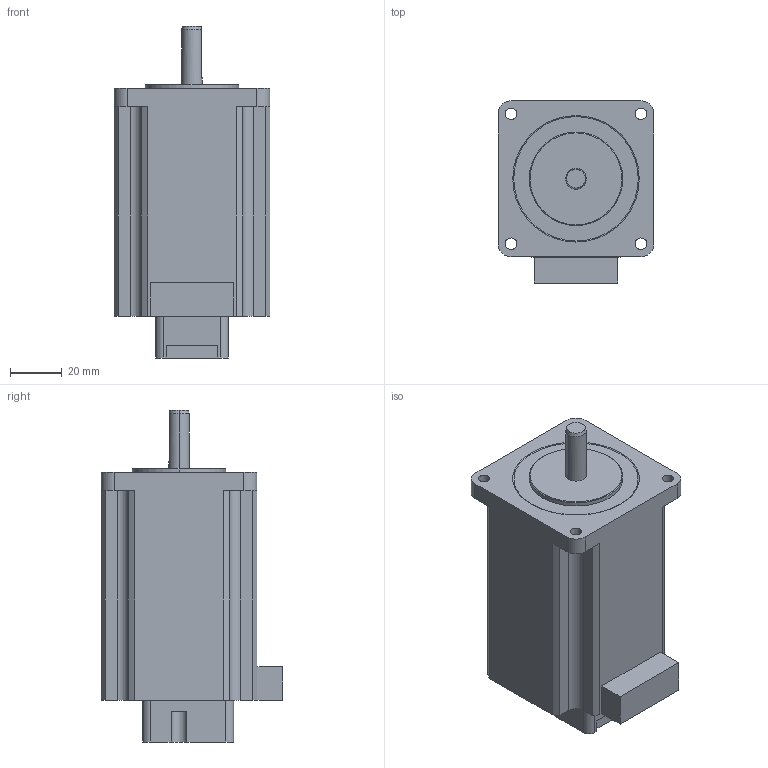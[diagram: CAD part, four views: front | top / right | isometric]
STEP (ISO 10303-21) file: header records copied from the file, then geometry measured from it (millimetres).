
FILE_DESCRIPTION (( 'STEP AP203' ), '1' );
FILE_NAME ('P-PMSA-U60D5HE-NL_3D.STEP', '2020-02-04T02:17:48', ( '' ), ( '' ), 'SwSTEP 2.0', 'SolidWorks 2018', '' );
FILE_SCHEMA (( 'CONFIG_CONTROL_DESIGN' ));
Length unit declared in the file: millimetre
Products named in the file (1): P-PMSA-U60D5HE-NL_3D
Bounding box: 60 x 70 x 127.8 mm (x, y, z)
Volume: 300918.6 mm3; surface area: 31048.2 mm2
Topology: 1 solids, 1 shells, 86 faces, 237 edges, 157 vertices
Faces by surface type: plane 44, cylinder 35, cone 7
Entity records: 2869 total; most frequent: CARTESIAN_POINT 505, DIRECTION 490, ORIENTED_EDGE 474, EDGE_CURVE 237, AXIS2_PLACEMENT_3D 170, VERTEX_POINT 157, VECTOR 150, LINE 150
